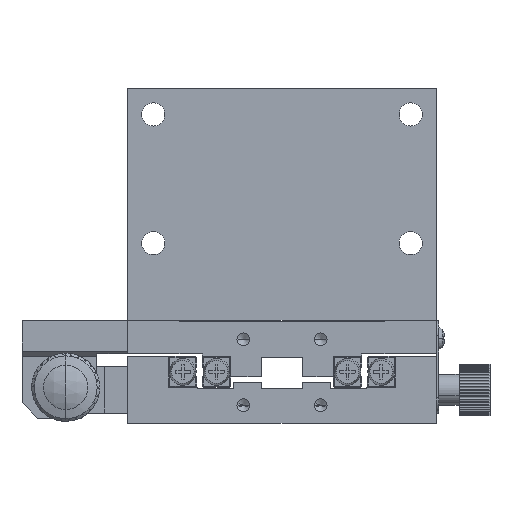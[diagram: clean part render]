
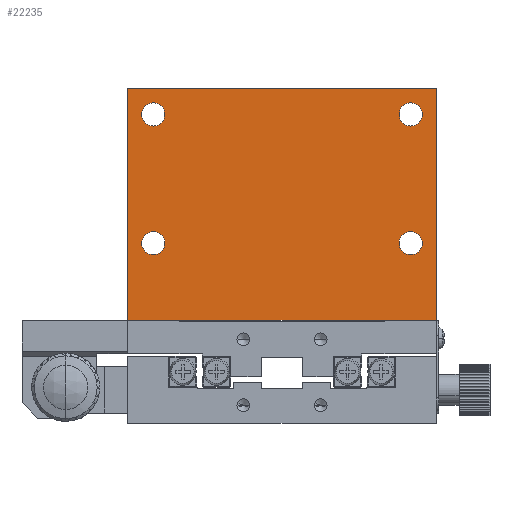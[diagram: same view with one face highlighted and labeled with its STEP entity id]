
A CAD part, front view. The second image highlights one B-rep face of the part: STEP entity #22235.
In plain terms, the highlighted planar face has unit normal (0, -1, 0).
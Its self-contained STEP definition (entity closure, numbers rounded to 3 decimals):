
#290 = CARTESIAN_POINT ( 'NONE',  ( 25., 0., -5. ) ) ;
#1458 = DIRECTION ( 'NONE',  ( 0., 0., -1. ) ) ;
#1963 = CARTESIAN_POINT ( 'NONE',  ( -30., 0., 0. ) ) ;
#2657 = AXIS2_PLACEMENT_3D ( 'NONE', #4933, #43131, #10410 ) ;
#2965 = LINE ( 'NONE', #40680, #43114 ) ;
#3072 = CARTESIAN_POINT ( 'NONE',  ( -25., 0., -30. ) ) ;
#4933 = CARTESIAN_POINT ( 'NONE',  ( -25., 0., -30. ) ) ;
#5200 = LINE ( 'NONE', #17725, #47103 ) ;
#5409 = ORIENTED_EDGE ( 'NONE', *, *, #56662, .T. ) ;
#5824 = DIRECTION ( 'NONE',  ( 0., 0., 1. ) ) ;
#7443 = CARTESIAN_POINT ( 'NONE',  ( -25., 0., -5. ) ) ;
#8267 = VERTEX_POINT ( 'NONE', #64952 ) ;
#8556 = DIRECTION ( 'NONE',  ( 0., 0., 1. ) ) ;
#9633 = CARTESIAN_POINT ( 'NONE',  ( -30., 0., -45. ) ) ;
#10410 = DIRECTION ( 'NONE',  ( 0., 0., 1. ) ) ;
#10434 = CIRCLE ( 'NONE', #66854, 2.25 ) ;
#10768 = CARTESIAN_POINT ( 'NONE',  ( 30., 0., 0. ) ) ;
#11333 = FACE_OUTER_BOUND ( 'NONE', #51410, .T. ) ;
#11503 = DIRECTION ( 'NONE',  ( 0., 0., 1. ) ) ;
#11676 = CARTESIAN_POINT ( 'NONE',  ( 25., 0., -7.25 ) ) ;
#12935 = DIRECTION ( 'NONE',  ( 0., 0., 1. ) ) ;
#13035 = FACE_BOUND ( 'NONE', #48610, .T. ) ;
#13146 = EDGE_LOOP ( 'NONE', ( #5409, #45751 ) ) ;
#13343 = CARTESIAN_POINT ( 'NONE',  ( -25., 0., -32.25 ) ) ;
#13401 = ORIENTED_EDGE ( 'NONE', *, *, #49745, .T. ) ;
#13539 = VECTOR ( 'NONE', #67327, 1000. ) ;
#14051 = CARTESIAN_POINT ( 'NONE',  ( -25., 0., -2.75 ) ) ;
#14370 = AXIS2_PLACEMENT_3D ( 'NONE', #23977, #62095, #29478 ) ;
#14906 = AXIS2_PLACEMENT_3D ( 'NONE', #7443, #45685, #12935 ) ;
#15087 = CARTESIAN_POINT ( 'NONE',  ( 25., 0., -30. ) ) ;
#15439 = DIRECTION ( 'NONE',  ( 0., 1., 0. ) ) ;
#15497 = EDGE_CURVE ( 'NONE', #53457, #67942, #40169, .T. ) ;
#15901 = ORIENTED_EDGE ( 'NONE', *, *, #69749, .T. ) ;
#16753 = PLANE ( 'NONE',  #65656 ) ;
#17725 = CARTESIAN_POINT ( 'NONE',  ( 30., 0., 0. ) ) ;
#18900 = VERTEX_POINT ( 'NONE', #25935 ) ;
#18965 = DIRECTION ( 'NONE',  ( -1., 0., 0. ) ) ;
#20579 = DIRECTION ( 'NONE',  ( 0., 0., 1. ) ) ;
#22235 = ADVANCED_FACE ( 'NONE', ( #13035, #54882, #40405, #25870, #11333 ), #16753, .F. ) ;
#22270 = CARTESIAN_POINT ( 'NONE',  ( -30., 0., 0. ) ) ;
#23083 = ORIENTED_EDGE ( 'NONE', *, *, #56997, .T. ) ;
#23122 = ORIENTED_EDGE ( 'NONE', *, *, #61950, .F. ) ;
#23207 = CARTESIAN_POINT ( 'NONE',  ( 30., 0., 0. ) ) ;
#23977 = CARTESIAN_POINT ( 'NONE',  ( 25., 0., -30. ) ) ;
#25870 = FACE_BOUND ( 'NONE', #49977, .T. ) ;
#25935 = CARTESIAN_POINT ( 'NONE',  ( 30., 0., -45. ) ) ;
#27438 = CARTESIAN_POINT ( 'NONE',  ( -25., 0., -5. ) ) ;
#27727 = AXIS2_PLACEMENT_3D ( 'NONE', #27438, #65556, #32939 ) ;
#29478 = DIRECTION ( 'NONE',  ( 0., 0., 1. ) ) ;
#32939 = DIRECTION ( 'NONE',  ( 0., 0., 1. ) ) ;
#33432 = VERTEX_POINT ( 'NONE', #22270 ) ;
#33517 = CARTESIAN_POINT ( 'NONE',  ( 25., 0., -2.75 ) ) ;
#37375 = ORIENTED_EDGE ( 'NONE', *, *, #53654, .T. ) ;
#37460 = EDGE_CURVE ( 'NONE', #8267, #37924, #38332, .T. ) ;
#37740 = CARTESIAN_POINT ( 'NONE',  ( 25., 0., -32.25 ) ) ;
#37924 = VERTEX_POINT ( 'NONE', #14051 ) ;
#38332 = CIRCLE ( 'NONE', #14906, 2.25 ) ;
#38551 = DIRECTION ( 'NONE',  ( 0., 1., 0. ) ) ;
#40169 = CIRCLE ( 'NONE', #55766, 2.25 ) ;
#40405 = FACE_BOUND ( 'NONE', #13146, .T. ) ;
#40680 = CARTESIAN_POINT ( 'NONE',  ( 30., 0., -45. ) ) ;
#41277 = DIRECTION ( 'NONE',  ( 0., 1., 0. ) ) ;
#43114 = VECTOR ( 'NONE', #18965, 1000. ) ;
#43131 = DIRECTION ( 'NONE',  ( 0., 1., 0. ) ) ;
#43168 = ORIENTED_EDGE ( 'NONE', *, *, #55353, .T. ) ;
#43351 = ORIENTED_EDGE ( 'NONE', *, *, #37460, .T. ) ;
#44225 = DIRECTION ( 'NONE',  ( 0., 1., 0. ) ) ;
#45685 = DIRECTION ( 'NONE',  ( 0., 1., 0. ) ) ;
#45751 = ORIENTED_EDGE ( 'NONE', *, *, #59103, .T. ) ;
#46260 = CIRCLE ( 'NONE', #63306, 2.25 ) ;
#47103 = VECTOR ( 'NONE', #66777, 1000. ) ;
#47569 = CARTESIAN_POINT ( 'NONE',  ( -25., 0., -27.75 ) ) ;
#48172 = CARTESIAN_POINT ( 'NONE',  ( 25., 0., -5. ) ) ;
#48610 = EDGE_LOOP ( 'NONE', ( #37375, #55021 ) ) ;
#48776 = CIRCLE ( 'NONE', #27727, 2.25 ) ;
#49574 = VERTEX_POINT ( 'NONE', #37740 ) ;
#49745 = EDGE_CURVE ( 'NONE', #68193, #33432, #5200, .T. ) ;
#49977 = EDGE_LOOP ( 'NONE', ( #43168, #15901 ) ) ;
#50169 = ORIENTED_EDGE ( 'NONE', *, *, #68922, .F. ) ;
#51410 = EDGE_LOOP ( 'NONE', ( #59384, #23122, #50169, #13401 ) ) ;
#53277 = DIRECTION ( 'NONE',  ( 0., 1., 0. ) ) ;
#53457 = VERTEX_POINT ( 'NONE', #13343 ) ;
#53631 = DIRECTION ( 'NONE',  ( 0., 0., 1. ) ) ;
#53654 = EDGE_CURVE ( 'NONE', #67942, #53457, #60967, .T. ) ;
#54882 = FACE_BOUND ( 'NONE', #65187, .T. ) ;
#55021 = ORIENTED_EDGE ( 'NONE', *, *, #15497, .T. ) ;
#55312 = AXIS2_PLACEMENT_3D ( 'NONE', #48172, #15439, #53631 ) ;
#55353 = EDGE_CURVE ( 'NONE', #63314, #49574, #10434, .T. ) ;
#55766 = AXIS2_PLACEMENT_3D ( 'NONE', #3072, #41277, #8556 ) ;
#56662 = EDGE_CURVE ( 'NONE', #64479, #64765, #46260, .T. ) ;
#56997 = EDGE_CURVE ( 'NONE', #37924, #8267, #48776, .T. ) ;
#57091 = LINE ( 'NONE', #1963, #13539 ) ;
#58642 = EDGE_CURVE ( 'NONE', #33432, #59654, #57091, .T. ) ;
#59103 = EDGE_CURVE ( 'NONE', #64765, #64479, #65532, .T. ) ;
#59384 = ORIENTED_EDGE ( 'NONE', *, *, #58642, .T. ) ;
#59654 = VERTEX_POINT ( 'NONE', #9633 ) ;
#60643 = CARTESIAN_POINT ( 'NONE',  ( 25., 0., -27.75 ) ) ;
#60967 = CIRCLE ( 'NONE', #2657, 2.25 ) ;
#61950 = EDGE_CURVE ( 'NONE', #18900, #59654, #2965, .T. ) ;
#62095 = DIRECTION ( 'NONE',  ( 0., 1., 0. ) ) ;
#62547 = CIRCLE ( 'NONE', #14370, 2.25 ) ;
#62671 = CARTESIAN_POINT ( 'NONE',  ( 30., 0., 0. ) ) ;
#63306 = AXIS2_PLACEMENT_3D ( 'NONE', #290, #38551, #5824 ) ;
#63314 = VERTEX_POINT ( 'NONE', #60643 ) ;
#64479 = VERTEX_POINT ( 'NONE', #33517 ) ;
#64765 = VERTEX_POINT ( 'NONE', #11676 ) ;
#64952 = CARTESIAN_POINT ( 'NONE',  ( -25., 0., -7.25 ) ) ;
#65187 = EDGE_LOOP ( 'NONE', ( #23083, #43351 ) ) ;
#65532 = CIRCLE ( 'NONE', #55312, 2.25 ) ;
#65556 = DIRECTION ( 'NONE',  ( 0., 1., 0. ) ) ;
#65656 = AXIS2_PLACEMENT_3D ( 'NONE', #10768, #44225, #11503 ) ;
#66777 = DIRECTION ( 'NONE',  ( -1., 0., 0. ) ) ;
#66854 = AXIS2_PLACEMENT_3D ( 'NONE', #15087, #53277, #20579 ) ;
#67327 = DIRECTION ( 'NONE',  ( 0., 0., -1. ) ) ;
#67748 = VECTOR ( 'NONE', #1458, 1000. ) ;
#67942 = VERTEX_POINT ( 'NONE', #47569 ) ;
#68193 = VERTEX_POINT ( 'NONE', #62671 ) ;
#68922 = EDGE_CURVE ( 'NONE', #68193, #18900, #69453, .T. ) ;
#69453 = LINE ( 'NONE', #23207, #67748 ) ;
#69749 = EDGE_CURVE ( 'NONE', #49574, #63314, #62547, .T. ) ;
